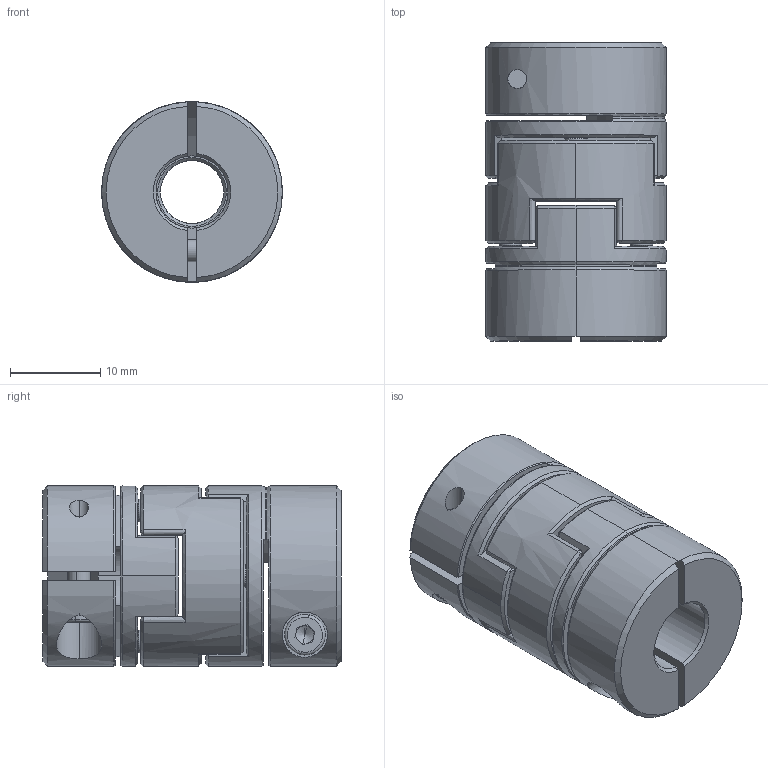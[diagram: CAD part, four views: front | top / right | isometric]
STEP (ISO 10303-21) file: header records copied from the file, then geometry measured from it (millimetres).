
FILE_DESCRIPTION (( 'STEP AP203' ), '1' );
FILE_NAME ('LZ-B-D20L33-7-8.STEP', '2021-10-29T05:40:04', ( '' ), ( '' ), 'SwSTEP 2.0', 'SolidWorks 2018', '' );
FILE_SCHEMA (( 'CONFIG_CONTROL_DESIGN' ));
Length unit declared in the file: millimetre
Products named in the file (1): LZ-B-D20L33-7-8
Bounding box: 20 x 33 x 20 mm (x, y, z)
Volume: 8116.7 mm3; surface area: 6101.5 mm2
Topology: 3 solids, 3 shells, 249 faces, 638 edges, 404 vertices
Faces by surface type: plane 113, cylinder 64, cone 42, bspline 26, torus 4
Entity records: 10323 total; most frequent: CARTESIAN_POINT 4472, ORIENTED_EDGE 1268, DIRECTION 1124, EDGE_CURVE 634, AXIS2_PLACEMENT_3D 434, VERTEX_POINT 404, EDGE_LOOP 276, VECTOR 256
